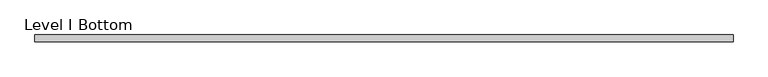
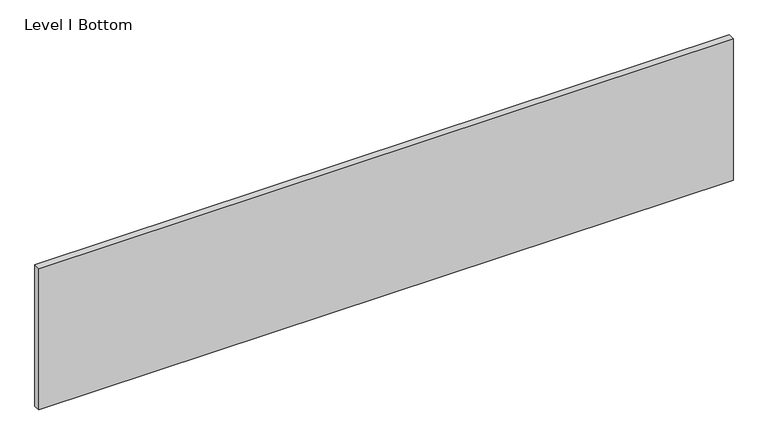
"""IFC4 building model written with IfcOpenShell, lengths in millimetres: proxy geometry, Panel-Fascia-Teknion-Altos-Landscape : Level I Bottom."""

from ifc_helpers import new_model, si_unit, frame, origin, place, context, project, spatial, polyline, outline, extrude, source, transform, mapped, element, save


def level_i_bottom_994d76d2(model_context):
    return source(origin(), model_context, "Body", "SweptSolid", [
        extrude(outline(polyline([(998.8407125, -9.525), (-998.8407125, -9.525), (-998.8407125, 9.525), (998.8407125, 9.525), (998.8407125, -9.525)])), frame((0.0, 0.0, 3.175), z_axis=(0.0, 0.0, 1.0), x_axis=(1.0, 0.0, 0.0)), (0.0, 0.0, 1.0), 429.768),
    ])


if __name__ == "__main__":
    model = new_model("IFC4")
    model_context = context("Model", 3, world=origin())
    ifc_project = project(units=[si_unit("LENGTHUNIT", "METRE", prefix="MILLI")], contexts=[model_context])
    site = spatial("IfcSite", under=ifc_project)
    building = spatial("IfcBuilding", under=site)
    placement = place(None, origin())
    level_i_bottom_shape = level_i_bottom_994d76d2(model_context)
    element("IfcBuildingElementProxy", 1, Name="Panel-Fascia-Teknion-Altos-Landscape : Level I Bottom", ObjectType="Panel-Fascia-Teknion-Altos-Landscape : Level I Bottom", at=placement, inside=building, context=model_context, shape_type="MappedRepresentation", body=[
        mapped(level_i_bottom_shape, transform((0.0, 0.0, 0.0), x_axis=(1.0, 0.0, 0.0), y_axis=(0.0, 1.0, 0.0), z_axis=(0.0, 0.0, 1.0))),
    ])
    save(model, "model.ifc")
